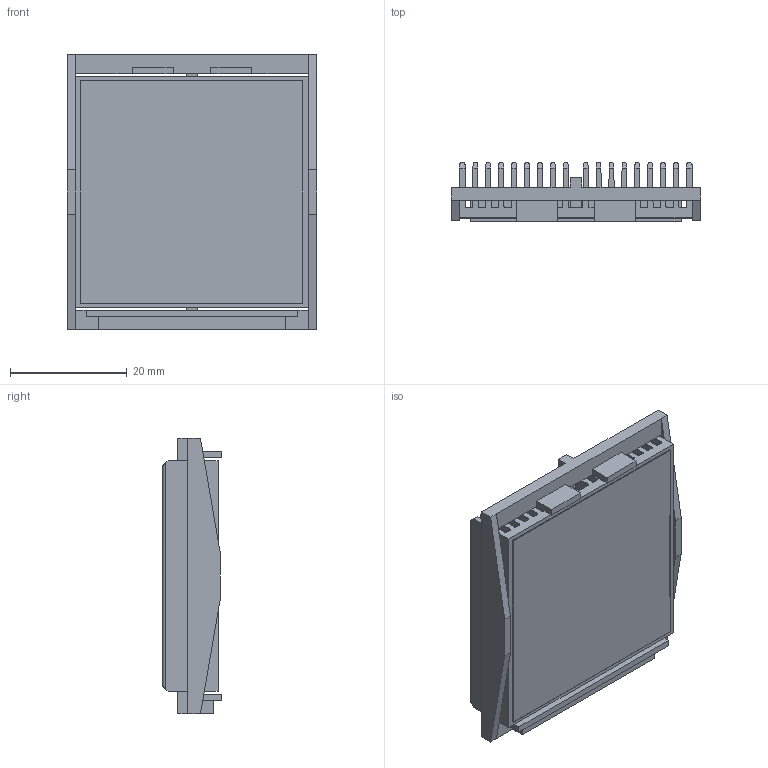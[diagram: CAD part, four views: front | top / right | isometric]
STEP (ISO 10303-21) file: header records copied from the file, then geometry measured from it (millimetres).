
FILE_DESCRIPTION (( 'STEP AP214' ), '1' );
FILE_NAME ('INL40001-10-1.7O.STEP', '2023-03-01T17:07:13', ( '' ), ( '' ), 'SwSTEP 2.0', 'SolidWorks 2020', '' );
FILE_SCHEMA (( 'AUTOMOTIVE_DESIGN' ));
Length unit declared in the file: millimetre
Products named in the file (1): INL40001-10-1.7O
Bounding box: 42.7 x 10.1 x 47.1 mm (x, y, z)
Volume: 9458.4 mm3; surface area: 19828.2 mm2
Topology: 3 solids, 3 shells, 198 faces, 578 edges, 384 vertices
Faces by surface type: plane 146, cylinder 52
Entity records: 8712 total; most frequent: CARTESIAN_POINT 1269, ORIENTED_EDGE 1156, DIRECTION 1008, EDGE_CURVE 578, LINE 474, VECTOR 474, VERTEX_POINT 384, AXIS2_PLACEMENT_3D 267
